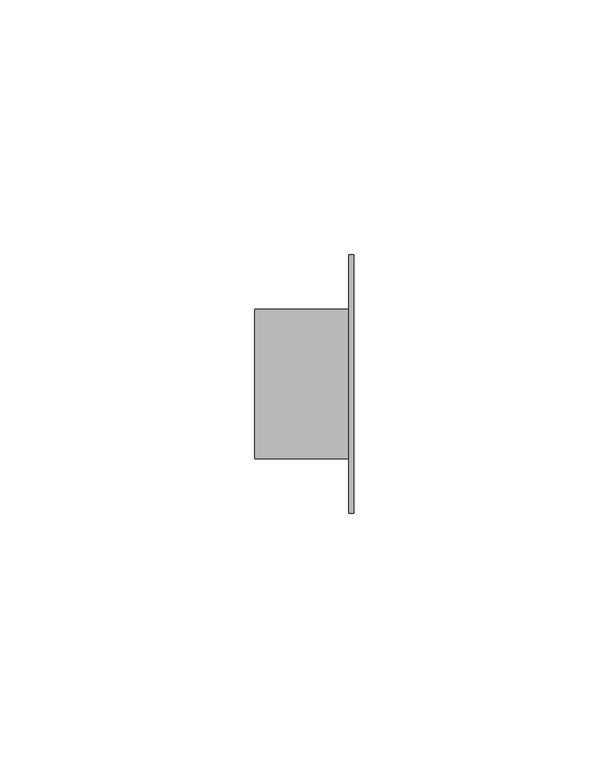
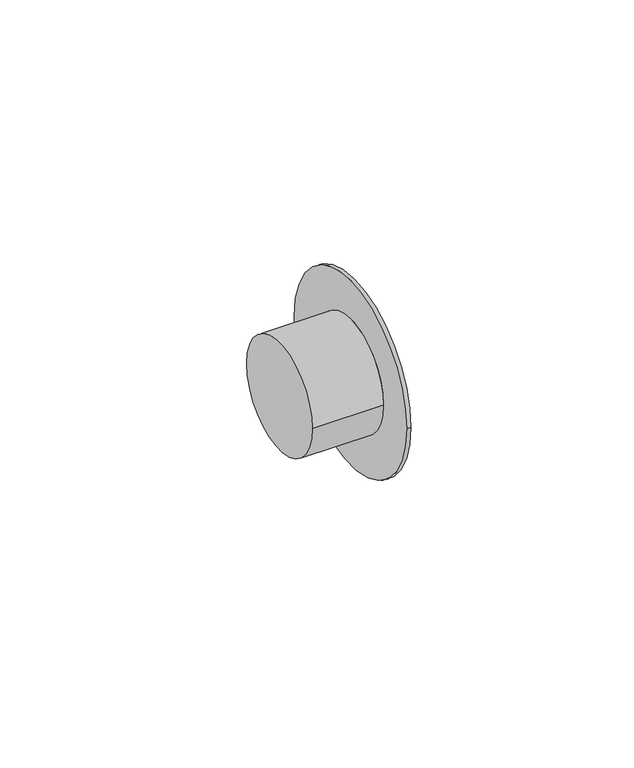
"""IFC4 building model written with IfcOpenShell, lengths in millimetres: pipe fitting geometry, Bucha de redução reta - Soldada - CU : Padrão."""

from ifc_helpers import new_model, si_unit, frame, origin, place, context, project, spatial, circle_curve, source, transform, mapped, element, save
from ifc_brep_helpers import plane_surface, cylinder_surface, advanced_brep


def pipe_fitting_12d4bf2b(model_context):
    return source(origin(), model_context, "Body", "AdvancedBrep", [
        advanced_brep(
        [(0.0, 14.7, 0.0), (0.0, -14.7, 0.0), (18.4, -14.7, 0.0), (18.4, 14.7, 0.0), (19.4, 25.3, 0.0), (19.4, -25.3, 0.0), (18.4, -25.3, 0.0), (18.4, 25.3, 0.0)],
        [
            (0, 1, circle_curve(frame((0.0, 0.0, 0.0), z_axis=(-1.0, 0.0, 0.0), x_axis=(0.0, -1.0, 0.0)), 14.7)),
            (1, 0, circle_curve(frame((0.0, 0.0, 0.0), z_axis=(-1.0, 0.0, 0.0), x_axis=(0.0, -1.0, 0.0)), 14.7)),
            (1, 2),
            (2, 3, circle_curve(frame((18.4, 0.0, 0.0), z_axis=(-1.0, 0.0, 0.0), x_axis=(0.0, -1.0, 0.0)), 14.7)),
            (3, 0),
            (3, 2, circle_curve(frame((18.4, 0.0, 0.0), z_axis=(-1.0, 0.0, 0.0), x_axis=(0.0, -1.0, 0.0)), 14.7)),
            (4, 5, circle_curve(frame((19.4, 0.0, 0.0), z_axis=(1.0, 0.0, 0.0), x_axis=(0.0, -1.0, 0.0)), 25.3)),
            (5, 4, circle_curve(frame((19.4, 0.0, 0.0), z_axis=(1.0, 0.0, 0.0), x_axis=(0.0, -1.0, 0.0)), 25.3)),
            (6, 5),
            (4, 7),
            (7, 6, circle_curve(frame((18.4, 0.0, 0.0), z_axis=(1.0, 0.0, 0.0), x_axis=(0.0, -1.0, 0.0)), 25.3)),
            (6, 7, circle_curve(frame((18.4, 0.0, 0.0), z_axis=(1.0, 0.0, 0.0), x_axis=(0.0, -1.0, 0.0)), 25.3)),
        ],
        [
            plane_surface(frame((0.0, 0.0, 0.0), z_axis=(-1.0, 0.0, 0.0), x_axis=(0.0, 0.0, 1.0))),
            cylinder_surface(frame((0.0, 0.0, 0.0), z_axis=(-1.0, 0.0, 0.0), x_axis=(0.0, -1.0, 0.0)), 14.7),
            plane_surface(frame((19.4, 0.0, 0.0), z_axis=(1.0, 0.0, 0.0), x_axis=(0.0, 0.0, 1.0))),
            cylinder_surface(frame((18.4, 0.0, 0.0), z_axis=(-1.0, 0.0, 0.0), x_axis=(0.0, -1.0, 0.0)), 25.3),
            plane_surface(frame((18.4, 0.0, 0.0), z_axis=(-1.0, 0.0, 0.0), x_axis=(0.0, 0.0, 1.0))),
        ],
        [
            (0, [[1, 2]]),
            (1, [[3, 4, 5, -2]]),
            (1, [[-5, 6, -3, -1]]),
            (2, [[7, 8]]),
            (3, [[9, -7, 10, 11]]),
            (3, [[-10, -8, -9, 12]]),
            (4, [[-12, -11], [-6, -4]]),
        ],
    ),
    ])


if __name__ == "__main__":
    model = new_model("IFC4")
    model_context = context("Model", 3, world=origin())
    ifc_project = project(units=[si_unit("LENGTHUNIT", "METRE", prefix="MILLI")], contexts=[model_context])
    site = spatial("IfcSite", under=ifc_project)
    building = spatial("IfcBuilding", under=site)
    placement = place(None, origin())
    pipe_fitting_shape = pipe_fitting_12d4bf2b(model_context)
    element("IfcPipeFitting", 1, ObjectType="Bucha de redução reta - Soldada - CU : Padrão", at=placement, inside=building, context=model_context, shape_type="MappedRepresentation", body=[
        mapped(pipe_fitting_shape, transform((0.0, 0.0, 0.0), x_axis=(1.0, 0.0, 0.0), y_axis=(0.0, 1.0, 0.0), z_axis=(0.0, 0.0, 1.0))),
    ])
    save(model, "model.ifc")
